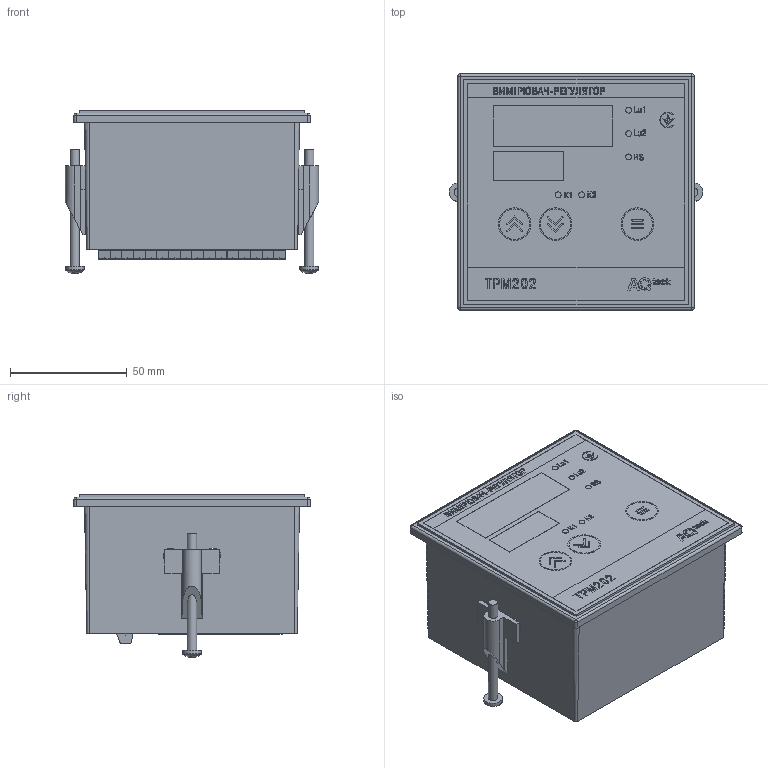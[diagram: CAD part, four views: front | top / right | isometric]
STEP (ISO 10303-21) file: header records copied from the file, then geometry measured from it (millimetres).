
FILE_DESCRIPTION (( 'STEP AP214' ), '1' );
FILE_NAME ('ﾒﾐﾌ202-ﾙ1.PP [U03].STEP', '2025-01-17T11:28:24', ( '' ), ( '' ), 'SwSTEP 2.0', 'SolidWorks 2019', '' );
FILE_SCHEMA (( 'AUTOMOTIVE_DESIGN' ));
Length unit declared in the file: millimetre
Products named in the file (8): ﾒﾐﾌ202-ﾙ1.PP [U03]; Êð³ïëåííÿ ï³ä âèíò Ì4; Óù³ëüíþâà÷ (Ù1); Êîðïóñ ÒÐÌ202-Ù1; M4 x 0.7 x 40 Type I Cross Recessed PHMS; 2EDGKR-5.08-16; AQ_TRM202_001F01M; 2EDGKR-5.08
Assembly tree (24 placements, depth 3):
  ﾒﾐﾌ202-ﾙ1.PP [U03]
    Êîðïóñ ÒÐÌ202-Ù1
    AQ_TRM202_001F01M
    Óù³ëüíþâà÷ (Ù1)
    2EDGKR-5.08-16
      2EDGKR-5.08  x16
    M4 x 0.7 x 40 Type I Cross Recessed PHMS  x2
    Êð³ïëåííÿ ï³ä âèíò Ì4  x2
Bounding box: 108.28 x 101 x 69.69 mm (x, y, z)
Volume: 105247.4 mm3; surface area: 125859.3 mm2
Topology: 308 solids, 308 shells, 5175 faces, 13431 edges, 8906 vertices
Faces by surface type: plane 3567, bspline 1322, cylinder 274, sphere 6, cone 4, torus 2
Full cylindrical faces by diameter (mm): 1.274 x2, 2.5 x10, 3.268 x4, 4 x2, 8 x2, 13 x6, 14 x3
Entity records: 192128 total; most frequent: CARTESIAN_POINT 41049, ORIENTED_EDGE 23066, DIRECTION 15394, EDGE_CURVE 11533, LINE 8638, VECTOR 8638, VERTEX_POINT 7697, EDGE_LOOP 4776
